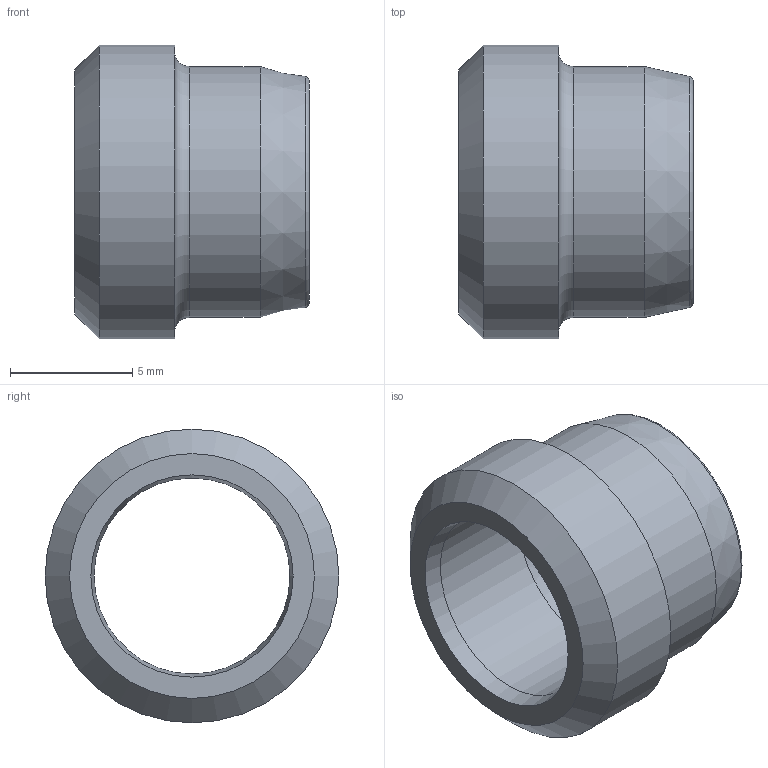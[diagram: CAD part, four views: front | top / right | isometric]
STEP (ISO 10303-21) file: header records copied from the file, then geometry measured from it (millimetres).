
FILE_DESCRIPTION( ( 'Unknown' ), '1' );
FILE_NAME( 'C:/Users/p.nanko/Desktop/3D SR/D08L_S.stp', 'Unknown', ( 'Peter Nanko' ), ( 'Armaturen Arndt' ), 'PSStep 14.0', 'Solid Edge ST4', ' ' );
FILE_SCHEMA( ( 'AUTOMOTIVE_DESIGN { 1 0 10303 214 1 1 1 1 }' ) );
Length unit declared in the file: millimetre
Products named in the file (1): 1001ESTERNO#0
Bounding box: 9.57 x 12 x 12 mm (x, y, z)
Volume: 383 mm3; surface area: 660.1 mm2
Topology: 1 solids, 1 shells, 15 faces, 31 edges, 20 vertices
Faces by surface type: cone 4, plane 4, torus 3, cylinder 3, bspline 1
Full cylindrical faces by diameter (mm): 8 x1, 10.25 x1, 12 x1
Entity records: 467 total; most frequent: CARTESIAN_POINT 73, DIRECTION 60, AXIS2_PLACEMENT_3D 30, EDGE_LOOP 30, ORIENTED_EDGE 30, FACE_OUTER_BOUND 22, STYLED_ITEM 15, PRESENTATION_STYLE_ASSIGNMENT 15
